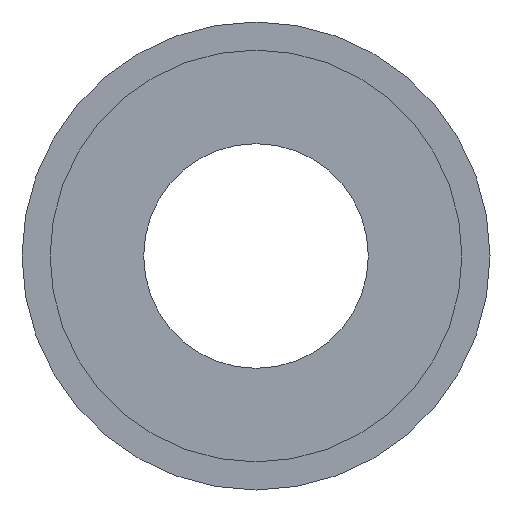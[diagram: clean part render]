
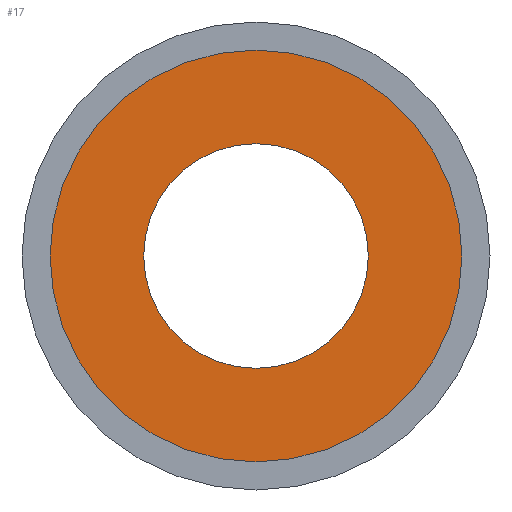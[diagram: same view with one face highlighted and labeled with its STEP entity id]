
A CAD part, left-side view. The second image highlights one B-rep face of the part: STEP entity #17.
In plain terms, the highlighted planar face has unit normal (-1, 0, 0).
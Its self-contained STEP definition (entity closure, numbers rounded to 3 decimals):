
#17 = ADVANCED_FACE('',(#18,#54),#31,.F.);
#18 = FACE_BOUND('',#19,.T.);
#19 = EDGE_LOOP('',(#20));
#20 = ORIENTED_EDGE('',*,*,#21,.T.);
#21 = EDGE_CURVE('',#22,#22,#24,.T.);
#22 = VERTEX_POINT('',#23);
#23 = CARTESIAN_POINT('',(0.,6.,0.));
#24 = SURFACE_CURVE('',#25,(#30,#42),.PCURVE_S1.);
#25 = CIRCLE('',#26,6.);
#26 = AXIS2_PLACEMENT_3D('',#27,#28,#29);
#27 = CARTESIAN_POINT('',(0.,0.,0.));
#28 = DIRECTION('',(1.,0.,0.));
#29 = DIRECTION('',(-0.,1.,0.));
#30 = PCURVE('',#31,#36);
#31 = PLANE('',#32);
#32 = AXIS2_PLACEMENT_3D('',#33,#34,#35);
#33 = CARTESIAN_POINT('',(0.,0.,0.));
#34 = DIRECTION('',(1.,0.,0.));
#35 = DIRECTION('',(-0.,1.,0.));
#36 = DEFINITIONAL_REPRESENTATION('',(#37),#41);
#37 = CIRCLE('',#38,6.);
#38 = AXIS2_PLACEMENT_2D('',#39,#40);
#39 = CARTESIAN_POINT('',(0.,0.));
#40 = DIRECTION('',(1.,-0.));
#41 = ( GEOMETRIC_REPRESENTATION_CONTEXT(2) 
PARAMETRIC_REPRESENTATION_CONTEXT() REPRESENTATION_CONTEXT('2D SPACE',''
  ) );
#42 = PCURVE('',#43,#48);
#43 = CYLINDRICAL_SURFACE('',#44,6.);
#44 = AXIS2_PLACEMENT_3D('',#45,#46,#47);
#45 = CARTESIAN_POINT('',(22.,0.,0.));
#46 = DIRECTION('',(-1.,-0.,-0.));
#47 = DIRECTION('',(0.,1.,0.));
#48 = DEFINITIONAL_REPRESENTATION('',(#49),#53);
#49 = LINE('',#50,#51);
#50 = CARTESIAN_POINT('',(-0.,22.));
#51 = VECTOR('',#52,1.);
#52 = DIRECTION('',(-1.,0.));
#53 = ( GEOMETRIC_REPRESENTATION_CONTEXT(2) 
PARAMETRIC_REPRESENTATION_CONTEXT() REPRESENTATION_CONTEXT('2D SPACE',''
  ) );
#54 = FACE_BOUND('',#55,.T.);
#55 = EDGE_LOOP('',(#56));
#56 = ORIENTED_EDGE('',*,*,#57,.F.);
#57 = EDGE_CURVE('',#58,#58,#60,.T.);
#58 = VERTEX_POINT('',#59);
#59 = CARTESIAN_POINT('',(0.,11.,0.));
#60 = SURFACE_CURVE('',#61,(#66,#73),.PCURVE_S1.);
#61 = CIRCLE('',#62,11.);
#62 = AXIS2_PLACEMENT_3D('',#63,#64,#65);
#63 = CARTESIAN_POINT('',(0.,0.,0.));
#64 = DIRECTION('',(1.,0.,0.));
#65 = DIRECTION('',(-0.,1.,0.));
#66 = PCURVE('',#31,#67);
#67 = DEFINITIONAL_REPRESENTATION('',(#68),#72);
#68 = CIRCLE('',#69,11.);
#69 = AXIS2_PLACEMENT_2D('',#70,#71);
#70 = CARTESIAN_POINT('',(0.,0.));
#71 = DIRECTION('',(1.,-0.));
#72 = ( GEOMETRIC_REPRESENTATION_CONTEXT(2) 
PARAMETRIC_REPRESENTATION_CONTEXT() REPRESENTATION_CONTEXT('2D SPACE',''
  ) );
#73 = PCURVE('',#74,#79);
#74 = CYLINDRICAL_SURFACE('',#75,11.);
#75 = AXIS2_PLACEMENT_3D('',#76,#77,#78);
#76 = CARTESIAN_POINT('',(0.,0.,0.));
#77 = DIRECTION('',(1.,0.,0.));
#78 = DIRECTION('',(-0.,1.,0.));
#79 = DEFINITIONAL_REPRESENTATION('',(#80),#84);
#80 = LINE('',#81,#82);
#81 = CARTESIAN_POINT('',(0.,0.));
#82 = VECTOR('',#83,1.);
#83 = DIRECTION('',(1.,0.));
#84 = ( GEOMETRIC_REPRESENTATION_CONTEXT(2) 
PARAMETRIC_REPRESENTATION_CONTEXT() REPRESENTATION_CONTEXT('2D SPACE',''
  ) );
